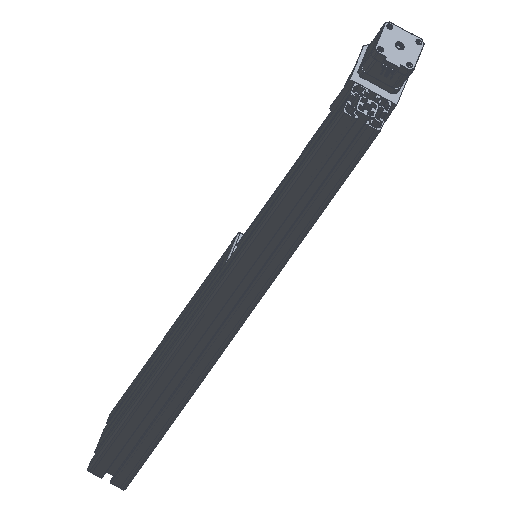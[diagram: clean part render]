
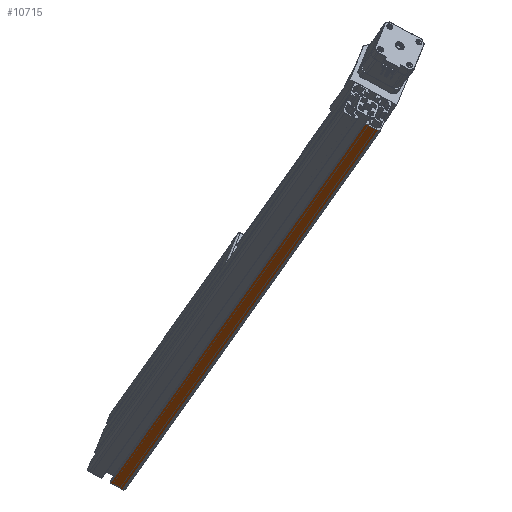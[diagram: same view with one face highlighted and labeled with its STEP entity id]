
A CAD part, top view. The second image highlights one B-rep face of the part: STEP entity #10715.
In plain terms, the highlighted planar face has unit normal (-0.279, -0.685, 0.673) as drawn and (0, 1, 0) by its records, which use the part's own axes.
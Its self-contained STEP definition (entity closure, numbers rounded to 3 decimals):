
#254 = VERTEX_POINT ( 'NONE', #39205 ) ;
#7190 = LINE ( 'NONE', #57777, #16520 ) ;
#8593 = EDGE_CURVE ( 'NONE', #254, #36493, #60375, .T. ) ;
#9673 = CARTESIAN_POINT ( 'NONE',  ( -17.6, 65., -675. ) ) ;
#10075 = VERTEX_POINT ( 'NONE', #9673 ) ;
#10703 = VECTOR ( 'NONE', #62101, 1000. ) ;
#10715 = ADVANCED_FACE ( 'NONE', ( #23279 ), #85869, .T. ) ;
#15285 = ORIENTED_EDGE ( 'NONE', *, *, #78682, .F. ) ;
#16520 = VECTOR ( 'NONE', #50849, 1000. ) ;
#19189 = VECTOR ( 'NONE', #42801, 1000. ) ;
#23279 = FACE_OUTER_BOUND ( 'NONE', #79066, .T. ) ;
#28954 = CARTESIAN_POINT ( 'NONE',  ( -17.6, 65., -675. ) ) ;
#29757 = ORIENTED_EDGE ( 'NONE', *, *, #8593, .F. ) ;
#32234 = CARTESIAN_POINT ( 'NONE',  ( -4.64, 65., -75. ) ) ;
#32619 = VECTOR ( 'NONE', #78411, 1000. ) ;
#36493 = VERTEX_POINT ( 'NONE', #32234 ) ;
#39205 = CARTESIAN_POINT ( 'NONE',  ( -4.64, 65., -675. ) ) ;
#42801 = DIRECTION ( 'NONE',  ( 0., 0., 1. ) ) ;
#49758 = VERTEX_POINT ( 'NONE', #62013 ) ;
#49937 = ORIENTED_EDGE ( 'NONE', *, *, #65183, .T. ) ;
#50849 = DIRECTION ( 'NONE',  ( -1., 0., 0. ) ) ;
#52299 = CARTESIAN_POINT ( 'NONE',  ( -17.6, 65., -675. ) ) ;
#57777 = CARTESIAN_POINT ( 'NONE',  ( -17.6, 65., -675. ) ) ;
#58936 = DIRECTION ( 'NONE',  ( 0., 1., 0. ) ) ;
#60375 = LINE ( 'NONE', #81271, #10703 ) ;
#62013 = CARTESIAN_POINT ( 'NONE',  ( -17.6, 65., -75. ) ) ;
#62101 = DIRECTION ( 'NONE',  ( 0., 0., 1. ) ) ;
#65183 = EDGE_CURVE ( 'NONE', #10075, #49758, #71925, .T. ) ;
#67963 = AXIS2_PLACEMENT_3D ( 'NONE', #52299, #58936, #78678 ) ;
#71925 = LINE ( 'NONE', #28954, #19189 ) ;
#72261 = CARTESIAN_POINT ( 'NONE',  ( -17.6, 65., -75. ) ) ;
#72904 = LINE ( 'NONE', #72261, #32619 ) ;
#73596 = EDGE_CURVE ( 'NONE', #254, #10075, #7190, .T. ) ;
#78411 = DIRECTION ( 'NONE',  ( -1., 0., 0. ) ) ;
#78678 = DIRECTION ( 'NONE',  ( 0., 0., 1. ) ) ;
#78682 = EDGE_CURVE ( 'NONE', #36493, #49758, #72904, .T. ) ;
#79066 = EDGE_LOOP ( 'NONE', ( #15285, #29757, #83663, #49937 ) ) ;
#81271 = CARTESIAN_POINT ( 'NONE',  ( -4.64, 65., -675. ) ) ;
#83663 = ORIENTED_EDGE ( 'NONE', *, *, #73596, .T. ) ;
#85869 = PLANE ( 'NONE',  #67963 ) ;
